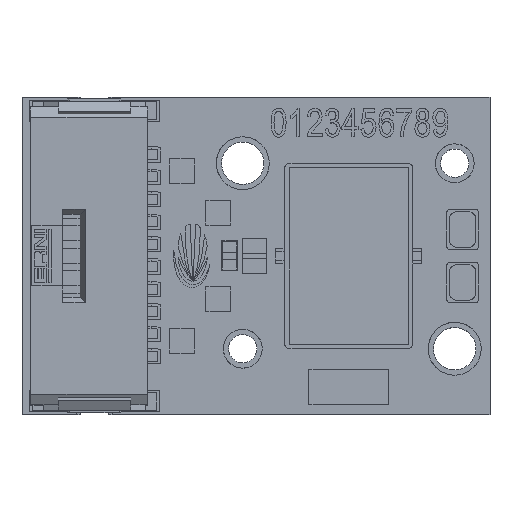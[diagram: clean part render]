
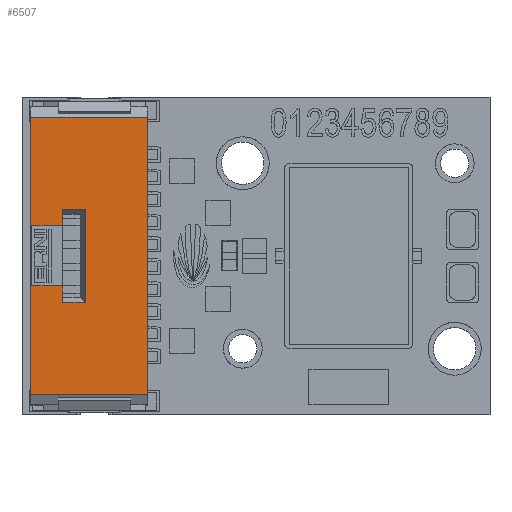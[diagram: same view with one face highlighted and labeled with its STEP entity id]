
A CAD part, top view. The second image highlights one B-rep face of the part: STEP entity #6507.
In plain terms, the highlighted planar face has unit normal (0, 0, 1).
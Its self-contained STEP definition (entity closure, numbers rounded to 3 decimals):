
#4500=FACE_BOUND('',#9468,.T.);
#6507=ADVANCED_FACE('',(#7987,#4500),#27682,.T.);
#7987=FACE_OUTER_BOUND('',#9467,.T.);
#9467=EDGE_LOOP('',(#11106,#11107,#11108,#11109));
#9468=EDGE_LOOP('',(#11110,#11111,#11112,#11113,#11114,#11115,#11116,#11117));
#11106=ORIENTED_EDGE('',*,*,#18752,.T.);
#11107=ORIENTED_EDGE('',*,*,#18753,.T.);
#11108=ORIENTED_EDGE('',*,*,#18754,.T.);
#11109=ORIENTED_EDGE('',*,*,#18755,.T.);
#11110=ORIENTED_EDGE('',*,*,#18763,.T.);
#11111=ORIENTED_EDGE('',*,*,#18756,.T.);
#11112=ORIENTED_EDGE('',*,*,#18757,.T.);
#11113=ORIENTED_EDGE('',*,*,#18758,.T.);
#11114=ORIENTED_EDGE('',*,*,#18759,.T.);
#11115=ORIENTED_EDGE('',*,*,#18760,.T.);
#11116=ORIENTED_EDGE('',*,*,#18761,.T.);
#11117=ORIENTED_EDGE('',*,*,#18762,.T.);
#18752=EDGE_CURVE('',#25236,#25237,#22581,.T.);
#18753=EDGE_CURVE('',#25237,#25238,#22582,.T.);
#18754=EDGE_CURVE('',#25238,#25239,#22583,.T.);
#18755=EDGE_CURVE('',#25239,#25236,#22584,.T.);
#18756=EDGE_CURVE('',#25240,#25241,#22585,.T.);
#18757=EDGE_CURVE('',#25241,#25242,#22586,.T.);
#18758=EDGE_CURVE('',#25242,#25243,#22587,.T.);
#18759=EDGE_CURVE('',#25243,#25244,#22588,.T.);
#18760=EDGE_CURVE('',#25244,#25245,#22589,.T.);
#18761=EDGE_CURVE('',#25245,#25246,#22590,.T.);
#18762=EDGE_CURVE('',#25246,#25247,#22591,.T.);
#18763=EDGE_CURVE('',#25247,#25240,#22592,.T.);
#22581=B_SPLINE_CURVE_WITH_KNOTS('',1,(#32104,#32105),.UNSPECIFIED.,.F.,
 .F.,(2,2),(0.,6.6),.UNSPECIFIED.);
#22582=B_SPLINE_CURVE_WITH_KNOTS('',1,(#32106,#32107),.UNSPECIFIED.,.F.,
 .F.,(2,2),(0.,15.68),.UNSPECIFIED.);
#22583=B_SPLINE_CURVE_WITH_KNOTS('',1,(#32108,#32109),.UNSPECIFIED.,.F.,
 .F.,(2,2),(0.,6.6),.UNSPECIFIED.);
#22584=B_SPLINE_CURVE_WITH_KNOTS('',1,(#32110,#32111),.UNSPECIFIED.,.F.,
 .F.,(2,2),(0.,15.68),.UNSPECIFIED.);
#22585=B_SPLINE_CURVE_WITH_KNOTS('',1,(#32112,#32113),.UNSPECIFIED.,.F.,
 .F.,(2,2),(0.,1.289),.UNSPECIFIED.);
#22586=B_SPLINE_CURVE_WITH_KNOTS('',1,(#32114,#32115),.UNSPECIFIED.,.F.,
 .F.,(2,2),(0.,0.939),.UNSPECIFIED.);
#22587=B_SPLINE_CURVE_WITH_KNOTS('',1,(#32116,#32117),.UNSPECIFIED.,.F.,
 .F.,(2,2),(0.,1.75),.UNSPECIFIED.);
#22588=B_SPLINE_CURVE_WITH_KNOTS('',1,(#32118,#32119),.UNSPECIFIED.,.F.,
 .F.,(2,2),(0.,3.4),.UNSPECIFIED.);
#22589=B_SPLINE_CURVE_WITH_KNOTS('',1,(#32120,#32121),.UNSPECIFIED.,.F.,
 .F.,(2,2),(0.,1.75),.UNSPECIFIED.);
#22590=B_SPLINE_CURVE_WITH_KNOTS('',1,(#32122,#32123),.UNSPECIFIED.,.F.,
 .F.,(2,2),(0.,0.939),.UNSPECIFIED.);
#22591=B_SPLINE_CURVE_WITH_KNOTS('',1,(#32124,#32125),.UNSPECIFIED.,.F.,
 .F.,(2,2),(0.,1.289),.UNSPECIFIED.);
#22592=B_SPLINE_CURVE_WITH_KNOTS('',1,(#32126,#32127),.UNSPECIFIED.,.F.,
 .F.,(2,2),(0.,5.277),.UNSPECIFIED.);
#25236=VERTEX_POINT('',#31348);
#25237=VERTEX_POINT('',#31349);
#25238=VERTEX_POINT('',#31350);
#25239=VERTEX_POINT('',#31351);
#25240=VERTEX_POINT('',#31352);
#25241=VERTEX_POINT('',#31353);
#25242=VERTEX_POINT('',#31354);
#25243=VERTEX_POINT('',#31355);
#25244=VERTEX_POINT('',#31356);
#25245=VERTEX_POINT('',#31357);
#25246=VERTEX_POINT('',#31358);
#25247=VERTEX_POINT('',#31359);
#27682=PLANE('',#28571);
#28571=AXIS2_PLACEMENT_3D('',#30809,#29674,$);
#29674=DIRECTION('',(0.,0.,1.));
#30809=CARTESIAN_POINT('',(-10.74,9.408,3.537));
#31348=CARTESIAN_POINT('',(-11.4,7.84,3.537));
#31349=CARTESIAN_POINT('',(-18.,7.84,3.537));
#31350=CARTESIAN_POINT('',(-18.,-7.84,3.537));
#31351=CARTESIAN_POINT('',(-11.4,-7.84,3.537));
#31352=CARTESIAN_POINT('',(-14.911,-2.639,3.537));
#31353=CARTESIAN_POINT('',(-16.2,-2.639,3.537));
#31354=CARTESIAN_POINT('',(-16.2,-1.7,3.537));
#31355=CARTESIAN_POINT('',(-17.95,-1.7,3.537));
#31356=CARTESIAN_POINT('',(-17.95,1.7,3.537));
#31357=CARTESIAN_POINT('',(-16.2,1.7,3.537));
#31358=CARTESIAN_POINT('',(-16.2,2.639,3.537));
#31359=CARTESIAN_POINT('',(-14.911,2.639,3.537));
#32104=CARTESIAN_POINT('',(-11.4,7.84,3.537));
#32105=CARTESIAN_POINT('',(-18.,7.84,3.537));
#32106=CARTESIAN_POINT('',(-18.,7.84,3.537));
#32107=CARTESIAN_POINT('',(-18.,-7.84,3.537));
#32108=CARTESIAN_POINT('',(-18.,-7.84,3.537));
#32109=CARTESIAN_POINT('',(-11.4,-7.84,3.537));
#32110=CARTESIAN_POINT('',(-11.4,-7.84,3.537));
#32111=CARTESIAN_POINT('',(-11.4,7.84,3.537));
#32112=CARTESIAN_POINT('',(-14.911,-2.639,3.537));
#32113=CARTESIAN_POINT('',(-16.2,-2.639,3.537));
#32114=CARTESIAN_POINT('',(-16.2,-2.639,3.537));
#32115=CARTESIAN_POINT('',(-16.2,-1.7,3.537));
#32116=CARTESIAN_POINT('',(-16.2,-1.7,3.537));
#32117=CARTESIAN_POINT('',(-17.95,-1.7,3.537));
#32118=CARTESIAN_POINT('',(-17.95,-1.7,3.537));
#32119=CARTESIAN_POINT('',(-17.95,1.7,3.537));
#32120=CARTESIAN_POINT('',(-17.95,1.7,3.537));
#32121=CARTESIAN_POINT('',(-16.2,1.7,3.537));
#32122=CARTESIAN_POINT('',(-16.2,1.7,3.537));
#32123=CARTESIAN_POINT('',(-16.2,2.639,3.537));
#32124=CARTESIAN_POINT('',(-16.2,2.639,3.537));
#32125=CARTESIAN_POINT('',(-14.911,2.639,3.537));
#32126=CARTESIAN_POINT('',(-14.911,2.639,3.537));
#32127=CARTESIAN_POINT('',(-14.911,-2.639,3.537));
